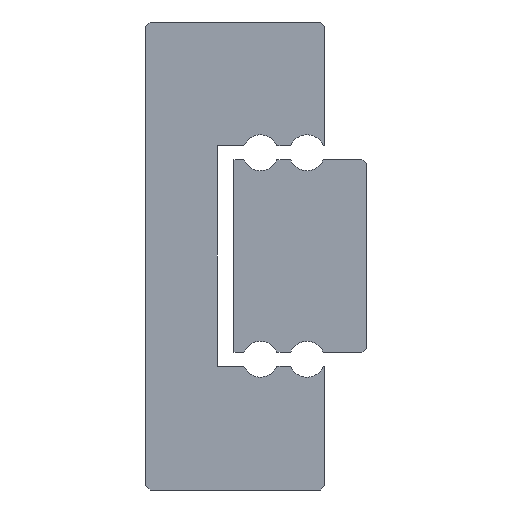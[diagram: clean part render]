
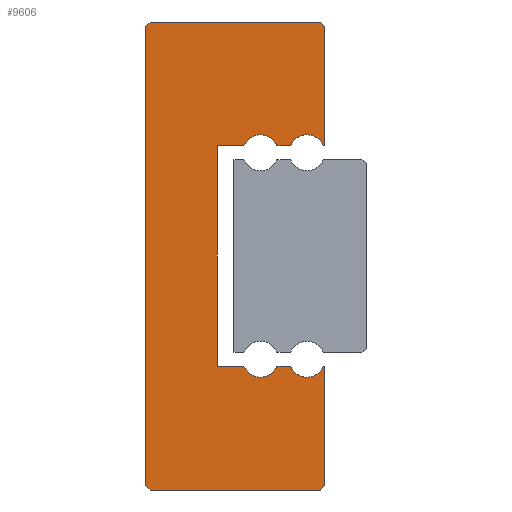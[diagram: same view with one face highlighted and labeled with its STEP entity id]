
A CAD part, left-side view. The second image highlights one B-rep face of the part: STEP entity #9606.
In plain terms, the highlighted planar face has unit normal (-1, 0, 0).
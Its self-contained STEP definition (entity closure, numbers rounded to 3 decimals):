
#324=CIRCLE('',#10444,0.65);
#326=CIRCLE('',#10448,0.65);
#328=CIRCLE('',#10454,0.65);
#330=CIRCLE('',#10458,0.65);
#1635=ORIENTED_EDGE('',*,*,#4020,.F.);
#1636=ORIENTED_EDGE('',*,*,#4472,.F.);
#1637=ORIENTED_EDGE('',*,*,#4469,.F.);
#1638=ORIENTED_EDGE('',*,*,#4454,.F.);
#1639=ORIENTED_EDGE('',*,*,#4451,.F.);
#1640=ORIENTED_EDGE('',*,*,#4448,.F.);
#1641=ORIENTED_EDGE('',*,*,#4445,.F.);
#1642=ORIENTED_EDGE('',*,*,#4442,.F.);
#1643=ORIENTED_EDGE('',*,*,#4439,.T.);
#1644=ORIENTED_EDGE('',*,*,#4436,.F.);
#1645=ORIENTED_EDGE('',*,*,#4433,.T.);
#1646=ORIENTED_EDGE('',*,*,#4430,.F.);
#1647=ORIENTED_EDGE('',*,*,#4427,.F.);
#1648=ORIENTED_EDGE('',*,*,#4424,.F.);
#1649=ORIENTED_EDGE('',*,*,#4421,.T.);
#1650=ORIENTED_EDGE('',*,*,#4418,.F.);
#1651=ORIENTED_EDGE('',*,*,#4415,.T.);
#1652=ORIENTED_EDGE('',*,*,#4412,.F.);
#1653=ORIENTED_EDGE('',*,*,#4409,.F.);
#1654=ORIENTED_EDGE('',*,*,#4406,.F.);
#4020=EDGE_CURVE('',#5478,#5479,#6464,.T.);
#4406=EDGE_CURVE('',#5479,#5864,#6602,.T.);
#4409=EDGE_CURVE('',#5864,#5866,#6605,.T.);
#4412=EDGE_CURVE('',#5866,#5868,#6608,.T.);
#4415=EDGE_CURVE('',#5870,#5868,#324,.T.);
#4418=EDGE_CURVE('',#5870,#5872,#6612,.T.);
#4421=EDGE_CURVE('',#5874,#5872,#326,.T.);
#4424=EDGE_CURVE('',#5874,#5876,#6616,.T.);
#4427=EDGE_CURVE('',#5876,#5878,#6619,.T.);
#4430=EDGE_CURVE('',#5878,#5880,#6622,.T.);
#4433=EDGE_CURVE('',#5882,#5880,#328,.T.);
#4436=EDGE_CURVE('',#5882,#5884,#6626,.T.);
#4439=EDGE_CURVE('',#5886,#5884,#330,.T.);
#4442=EDGE_CURVE('',#5886,#5888,#6630,.T.);
#4445=EDGE_CURVE('',#5888,#5890,#6633,.T.);
#4448=EDGE_CURVE('',#5890,#5892,#6636,.T.);
#4451=EDGE_CURVE('',#5892,#5894,#6639,.T.);
#4454=EDGE_CURVE('',#5894,#5896,#6642,.T.);
#4469=EDGE_CURVE('',#5896,#5910,#6645,.T.);
#4472=EDGE_CURVE('',#5910,#5478,#6648,.T.);
#5478=VERTEX_POINT('',#14721);
#5479=VERTEX_POINT('',#14722);
#5864=VERTEX_POINT('',#15494);
#5866=VERTEX_POINT('',#15500);
#5868=VERTEX_POINT('',#15506);
#5870=VERTEX_POINT('',#15512);
#5872=VERTEX_POINT('',#15518);
#5874=VERTEX_POINT('',#15524);
#5876=VERTEX_POINT('',#15530);
#5878=VERTEX_POINT('',#15536);
#5880=VERTEX_POINT('',#15542);
#5882=VERTEX_POINT('',#15548);
#5884=VERTEX_POINT('',#15554);
#5886=VERTEX_POINT('',#15560);
#5888=VERTEX_POINT('',#15566);
#5890=VERTEX_POINT('',#15572);
#5892=VERTEX_POINT('',#15578);
#5894=VERTEX_POINT('',#15584);
#5896=VERTEX_POINT('',#15590);
#5910=VERTEX_POINT('',#15620);
#6464=LINE('',#14720,#7280);
#6602=LINE('',#15493,#7418);
#6605=LINE('',#15499,#7421);
#6608=LINE('',#15505,#7424);
#6612=LINE('',#15517,#7428);
#6616=LINE('',#15529,#7432);
#6619=LINE('',#15535,#7435);
#6622=LINE('',#15541,#7438);
#6626=LINE('',#15553,#7442);
#6630=LINE('',#15565,#7446);
#6633=LINE('',#15571,#7449);
#6636=LINE('',#15577,#7452);
#6639=LINE('',#15583,#7455);
#6642=LINE('',#15589,#7458);
#6645=LINE('',#15619,#7461);
#6648=LINE('',#15625,#7464);
#7280=VECTOR('',#11495,1000.);
#7418=VECTOR('',#12131,1000.);
#7421=VECTOR('',#12136,1000.);
#7424=VECTOR('',#12141,1000.);
#7428=VECTOR('',#12153,1000.);
#7432=VECTOR('',#12165,1000.);
#7435=VECTOR('',#12170,1000.);
#7438=VECTOR('',#12175,1000.);
#7442=VECTOR('',#12187,1000.);
#7446=VECTOR('',#12199,1000.);
#7449=VECTOR('',#12204,1000.);
#7452=VECTOR('',#12209,1000.);
#7455=VECTOR('',#12214,1000.);
#7458=VECTOR('',#12219,1000.);
#7461=VECTOR('',#12248,1000.);
#7464=VECTOR('',#12253,1000.);
#8166=EDGE_LOOP('',(#1635,#1636,#1637,#1638,#1639,#1640,#1641,#1642,#1643,
#1644,#1645,#1646,#1647,#1648,#1649,#1650,#1651,#1652,#1653,#1654));
#8805=FACE_BOUND('',#8166,.T.);
#9368=PLANE('',#10480);
#9606=ADVANCED_FACE('',(#8805),#9368,.F.);
#10444=AXIS2_PLACEMENT_3D('',#15511,#12146,#12147);
#10448=AXIS2_PLACEMENT_3D('',#15523,#12158,#12159);
#10454=AXIS2_PLACEMENT_3D('',#15547,#12180,#12181);
#10458=AXIS2_PLACEMENT_3D('',#15559,#12192,#12193);
#10480=AXIS2_PLACEMENT_3D('',#15628,#12257,#12258);
#11495=DIRECTION('',(0.,-1.,0.));
#12131=DIRECTION('',(0.,-0.707,-0.707));
#12136=DIRECTION('',(0.,0.,-1.));
#12141=DIRECTION('',(0.,1.,0.));
#12146=DIRECTION('',(1.,0.,0.));
#12147=DIRECTION('',(0.,0.,-1.));
#12153=DIRECTION('',(0.,1.,0.));
#12158=DIRECTION('',(1.,0.,0.));
#12159=DIRECTION('',(0.,0.,-1.));
#12165=DIRECTION('',(0.,1.,0.));
#12170=DIRECTION('',(0.,0.,-1.));
#12175=DIRECTION('',(0.,-1.,0.));
#12180=DIRECTION('',(1.,0.,0.));
#12181=DIRECTION('',(0.,0.,-1.));
#12187=DIRECTION('',(0.,-1.,0.));
#12192=DIRECTION('',(1.,0.,0.));
#12193=DIRECTION('',(0.,0.,-1.));
#12199=DIRECTION('',(0.,-1.,0.));
#12204=DIRECTION('',(0.,0.,-1.));
#12209=DIRECTION('',(0.,0.707,-0.707));
#12214=DIRECTION('',(0.,1.,0.));
#12219=DIRECTION('',(0.,0.707,0.707));
#12248=DIRECTION('',(0.,0.,1.));
#12253=DIRECTION('',(0.,-0.707,0.707));
#12257=DIRECTION('',(1.,0.,0.));
#12258=DIRECTION('',(0.,0.,-1.));
#14720=CARTESIAN_POINT('',(-35.,6.35,8.5));
#14721=CARTESIAN_POINT('',(-35.,6.35,8.5));
#14722=CARTESIAN_POINT('',(-35.,0.15,8.5));
#15493=CARTESIAN_POINT('',(-35.,0.15,8.5));
#15494=CARTESIAN_POINT('',(-35.,0.,8.35));
#15499=CARTESIAN_POINT('',(-35.,0.,8.35));
#15500=CARTESIAN_POINT('',(-35.,0.,4.));
#15505=CARTESIAN_POINT('',(-35.,0.,4.));
#15506=CARTESIAN_POINT('',(-35.,0.05,4.));
#15511=CARTESIAN_POINT('',(-35.,0.65,3.75));
#15512=CARTESIAN_POINT('',(-35.,1.25,4.));
#15517=CARTESIAN_POINT('',(-35.,1.25,4.));
#15518=CARTESIAN_POINT('',(-35.,1.74,4.));
#15523=CARTESIAN_POINT('',(-35.,2.34,3.75));
#15524=CARTESIAN_POINT('',(-35.,2.94,4.));
#15529=CARTESIAN_POINT('',(-35.,2.94,4.));
#15530=CARTESIAN_POINT('',(-35.,3.9,4.));
#15535=CARTESIAN_POINT('',(-35.,3.9,4.));
#15536=CARTESIAN_POINT('',(-35.,3.9,-4.));
#15541=CARTESIAN_POINT('',(-35.,3.9,-4.));
#15542=CARTESIAN_POINT('',(-35.,2.94,-4.));
#15547=CARTESIAN_POINT('',(-35.,2.34,-3.75));
#15548=CARTESIAN_POINT('',(-35.,1.74,-4.));
#15553=CARTESIAN_POINT('',(-35.,1.74,-4.));
#15554=CARTESIAN_POINT('',(-35.,1.25,-4.));
#15559=CARTESIAN_POINT('',(-35.,0.65,-3.75));
#15560=CARTESIAN_POINT('',(-35.,0.05,-4.));
#15565=CARTESIAN_POINT('',(-35.,0.05,-4.));
#15566=CARTESIAN_POINT('',(-35.,0.,-4.));
#15571=CARTESIAN_POINT('',(-35.,0.,-4.));
#15572=CARTESIAN_POINT('',(-35.,0.,-8.35));
#15577=CARTESIAN_POINT('',(-35.,0.,-8.35));
#15578=CARTESIAN_POINT('',(-35.,0.15,-8.5));
#15583=CARTESIAN_POINT('',(-35.,0.15,-8.5));
#15584=CARTESIAN_POINT('',(-35.,6.35,-8.5));
#15589=CARTESIAN_POINT('',(-35.,6.35,-8.5));
#15590=CARTESIAN_POINT('',(-35.,6.5,-8.35));
#15619=CARTESIAN_POINT('',(-35.,6.5,-8.35));
#15620=CARTESIAN_POINT('',(-35.,6.5,8.35));
#15625=CARTESIAN_POINT('',(-35.,6.5,8.35));
#15628=CARTESIAN_POINT('',(-35.,0.65,3.75));
